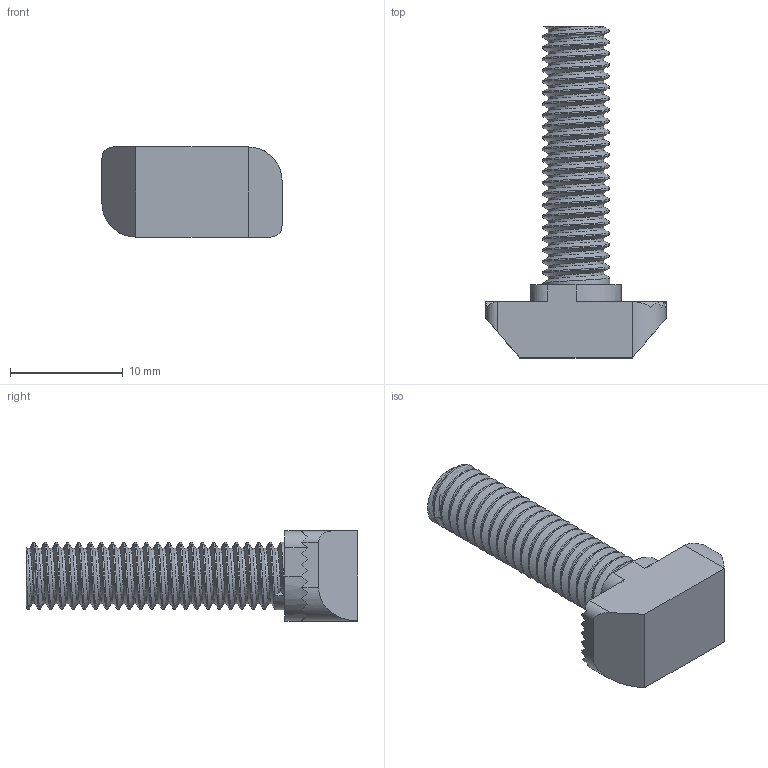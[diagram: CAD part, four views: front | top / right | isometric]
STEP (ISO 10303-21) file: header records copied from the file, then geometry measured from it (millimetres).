
FILE_DESCRIPTION (( 'STEP AP214' ), '1' );
FILE_NAME ('8-2-M6x25.STEP', '2019-01-08T06:58:45', ( '' ), ( '' ), 'SwSTEP 2.0', 'SolidWorks 2018', '' );
FILE_SCHEMA (( 'AUTOMOTIVE_DESIGN' ));
Length unit declared in the file: millimetre
Products named in the file (1): 8-2-M6x25
Bounding box: 16 x 29.5 x 8 mm (x, y, z)
Volume: 1143.2 mm3; surface area: 1125.6 mm2
Topology: 1 solids, 1 shells, 103 faces, 290 edges, 190 vertices
Faces by surface type: cylinder 54, plane 44, bspline 3, cone 2
Entity records: 6698 total; most frequent: CARTESIAN_POINT 4436, ORIENTED_EDGE 580, DIRECTION 356, EDGE_CURVE 290, VERTEX_POINT 190, VECTOR 136, LINE 136, AXIS2_PLACEMENT_3D 110
